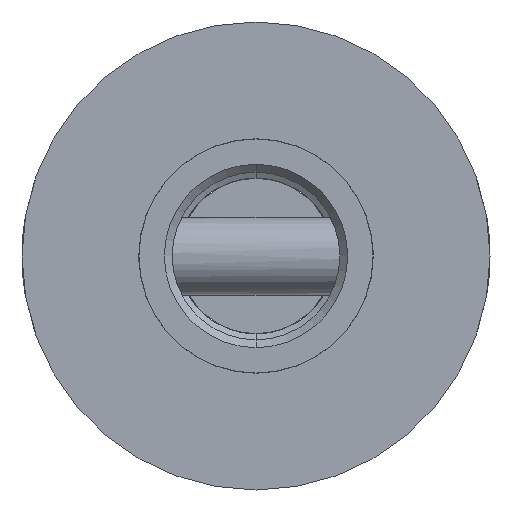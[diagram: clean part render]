
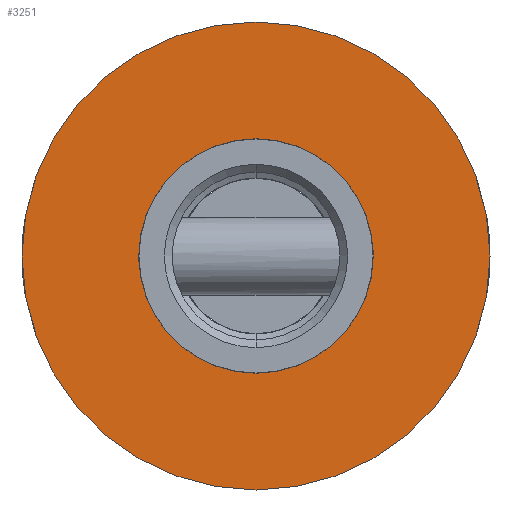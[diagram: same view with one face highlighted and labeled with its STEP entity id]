
A CAD part, front view. The second image highlights one B-rep face of the part: STEP entity #3251.
In plain terms, the highlighted planar face has unit normal (0, -1, 0).
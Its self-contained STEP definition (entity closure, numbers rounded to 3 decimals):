
#12 = PLANE ( 'NONE',  #2183 ) ;
#34 = ORIENTED_EDGE ( 'NONE', *, *, #3076, .T. ) ;
#204 = EDGE_LOOP ( 'NONE', ( #437, #34 ) ) ;
#241 = AXIS2_PLACEMENT_3D ( 'NONE', #504, #485, #277 ) ;
#246 = DIRECTION ( 'NONE',  ( 0., -1., 0. ) ) ;
#277 = DIRECTION ( 'NONE',  ( 0., 0., -1. ) ) ;
#334 = AXIS2_PLACEMENT_3D ( 'NONE', #1244, #1283, #1290 ) ;
#363 = DIRECTION ( 'NONE',  ( 0., 0., -1. ) ) ;
#433 = CIRCLE ( 'NONE', #241, 3.005 ) ;
#437 = ORIENTED_EDGE ( 'NONE', *, *, #2019, .T. ) ;
#476 = CARTESIAN_POINT ( 'NONE',  ( 0., -400., 0. ) ) ;
#485 = DIRECTION ( 'NONE',  ( 0., -1., 0. ) ) ;
#498 = VERTEX_POINT ( 'NONE', #1383 ) ;
#504 = CARTESIAN_POINT ( 'NONE',  ( 0., -400., 0. ) ) ;
#946 = CIRCLE ( 'NONE', #1468, 6. ) ;
#1012 = FACE_BOUND ( 'NONE', #3180, .T. ) ;
#1081 = FACE_OUTER_BOUND ( 'NONE', #204, .T. ) ;
#1220 = AXIS2_PLACEMENT_3D ( 'NONE', #2924, #2908, #2693 ) ;
#1227 = EDGE_CURVE ( 'NONE', #3310, #2095, #433, .T. ) ;
#1244 = CARTESIAN_POINT ( 'NONE',  ( 0., -400., 0. ) ) ;
#1283 = DIRECTION ( 'NONE',  ( 0., -1., 0. ) ) ;
#1290 = DIRECTION ( 'NONE',  ( 0., 0., -1. ) ) ;
#1383 = CARTESIAN_POINT ( 'NONE',  ( 0., -400., -6. ) ) ;
#1407 = CIRCLE ( 'NONE', #334, 3.005 ) ;
#1468 = AXIS2_PLACEMENT_3D ( 'NONE', #1786, #1795, #1820 ) ;
#1786 = CARTESIAN_POINT ( 'NONE',  ( 0., -400., 0. ) ) ;
#1795 = DIRECTION ( 'NONE',  ( 0., -1., 0. ) ) ;
#1820 = DIRECTION ( 'NONE',  ( 0., 0., -1. ) ) ;
#1898 = EDGE_CURVE ( 'NONE', #2095, #3310, #1407, .T. ) ;
#2019 = EDGE_CURVE ( 'NONE', #498, #2763, #946, .T. ) ;
#2045 = ORIENTED_EDGE ( 'NONE', *, *, #1898, .F. ) ;
#2095 = VERTEX_POINT ( 'NONE', #2881 ) ;
#2165 = CARTESIAN_POINT ( 'NONE',  ( 0., -400., 6. ) ) ;
#2183 = AXIS2_PLACEMENT_3D ( 'NONE', #476, #246, #363 ) ;
#2399 = ORIENTED_EDGE ( 'NONE', *, *, #1227, .F. ) ;
#2407 = CIRCLE ( 'NONE', #1220, 6. ) ;
#2570 = CARTESIAN_POINT ( 'NONE',  ( 0., -400., -3.005 ) ) ;
#2693 = DIRECTION ( 'NONE',  ( 0., 0., -1. ) ) ;
#2763 = VERTEX_POINT ( 'NONE', #2165 ) ;
#2881 = CARTESIAN_POINT ( 'NONE',  ( 0., -400., 3.005 ) ) ;
#2908 = DIRECTION ( 'NONE',  ( 0., -1., 0. ) ) ;
#2924 = CARTESIAN_POINT ( 'NONE',  ( 0., -400., 0. ) ) ;
#3076 = EDGE_CURVE ( 'NONE', #2763, #498, #2407, .T. ) ;
#3180 = EDGE_LOOP ( 'NONE', ( #2399, #2045 ) ) ;
#3251 = ADVANCED_FACE ( 'NONE', ( #1012, #1081 ), #12, .T. ) ;
#3310 = VERTEX_POINT ( 'NONE', #2570 ) ;
